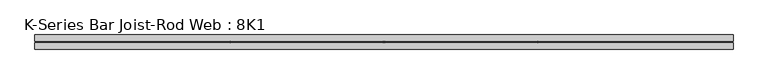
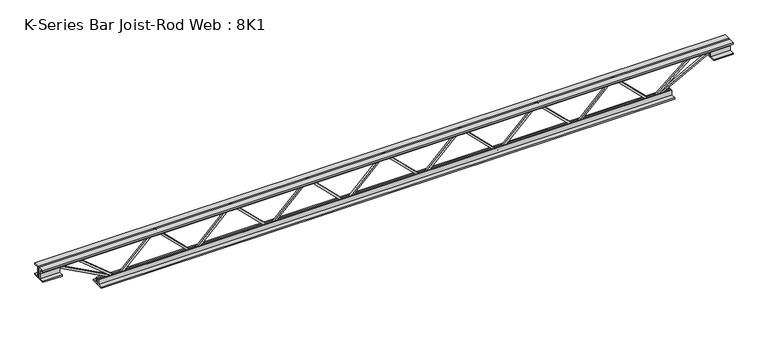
"""IFC4 building model written with IfcOpenShell, lengths in millimetres: beam geometry, K-Series Bar Joist-Rod Web : 8K1."""

from ifc_helpers import new_model, si_unit, frame, origin, place, context, project, spatial, polyline, outline, extrude, source, transform, mapped, element, save


def k_series_bar_joist_rod_web_8k1_8d8b8ead(model_context):
    return source(origin(), model_context, "Body", "SweptSolid", [
        extrude(outline(polyline([(-90.4875, 598.572914), (-100.0125, 598.572914), (-100.0125, 603.7011887), (90.4875, 796.8754933), (90.4875, 799.3189439), (-100.0125, 992.4932486), (-100.0125, 997.6215233), (-90.4875, 997.6215233), (-90.4875, 996.399798), (100.0125, 803.2254933), (100.0125, 792.9689439), (-90.4875, 599.7946393), (-90.4875, 598.572914)])), frame((0.0, -4.7625, 0.0), z_axis=(0.0, 1.0, 0.0), x_axis=(0.0, 0.0, 1.0)), (0.0, 0.0, 1.0), 9.525),
        extrude(outline(polyline([(-90.4875, 199.5243047), (-100.0125, 199.5243047), (-100.0125, 204.6525794), (90.4875, 397.826884), (90.4875, 400.2703346), (-100.0125, 593.4446393), (-100.0125, 598.572914), (-90.4875, 598.572914), (-90.4875, 597.3511887), (100.0125, 404.176884), (100.0125, 393.9203346), (-90.4875, 200.74603), (-90.4875, 199.5243047)])), frame((0.0, -4.7625, 0.0), z_axis=(0.0, 1.0, 0.0), x_axis=(0.0, 0.0, 1.0)), (0.0, 0.0, 1.0), 9.525),
        extrude(outline(polyline([(-90.4875, -199.5243047), (-100.0125, -199.5243047), (-100.0125, -194.39603), (90.4875, -1.2217253), (90.4875, 1.2217253), (-100.0125, 194.39603), (-100.0125, 199.5243047), (-90.4875, 199.5243047), (-90.4875, 198.3025794), (100.0125, 5.1282747), (100.0125, -5.1282747), (-90.4875, -198.3025794), (-90.4875, -199.5243047)])), frame((0.0, -4.7625, 0.0), z_axis=(0.0, 1.0, 0.0), x_axis=(0.0, 0.0, 1.0)), (0.0, 0.0, 1.0), 9.525),
        extrude(outline(polyline([(-90.4875, -598.572914), (-100.0125, -598.572914), (-100.0125, -593.4446393), (90.4875, -400.2703346), (90.4875, -397.826884), (-100.0125, -204.6525794), (-100.0125, -199.5243047), (-90.4875, -199.5243047), (-90.4875, -200.74603), (100.0125, -393.9203346), (100.0125, -404.176884), (-90.4875, -597.3511887), (-90.4875, -598.572914)])), frame((0.0, -4.7625, 0.0), z_axis=(0.0, 1.0, 0.0), x_axis=(0.0, 0.0, 1.0)), (0.0, 0.0, 1.0), 9.525),
        extrude(outline(polyline([(-90.4875, -997.6215233), (-100.0125, -997.6215233), (-100.0125, -992.4932486), (90.4875, -799.3189439), (90.4875, -796.8754933), (-100.0125, -603.7011887), (-100.0125, -598.572914), (-90.4875, -598.572914), (-90.4875, -599.7946393), (100.0125, -792.9689439), (100.0125, -803.2254933), (-90.4875, -996.399798), (-90.4875, -997.6215233)])), frame((0.0, -4.7625, 0.0), z_axis=(0.0, 1.0, 0.0), x_axis=(0.0, 0.0, 1.0)), (0.0, 0.0, 1.0), 9.525),
        extrude(outline(polyline([(-90.4875, 997.6215233), (-100.0125, 997.6215233), (-100.0125, 1002.749798), (90.4875, 1195.9241027), (90.4875, 1198.3675532), (-100.0125, 1391.5418579), (-100.0125, 1396.6701326), (-90.4875, 1396.6701326), (-90.4875, 1395.4484073), (100.0125, 1202.2741027), (100.0125, 1192.0175532), (-90.4875, 998.8432486), (-90.4875, 997.6215233)])), frame((0.0, -4.7625, 0.0), z_axis=(0.0, 1.0, 0.0), x_axis=(0.0, 0.0, 1.0)), (0.0, 0.0, 1.0), 9.525),
        extrude(outline(polyline([(-90.4875, -1396.6701326), (-100.0125, -1396.6701326), (-100.0125, -1391.5418579), (90.4875, -1198.3675532), (90.4875, -1195.9241027), (-100.0125, -1002.749798), (-100.0125, -997.6215233), (-90.4875, -997.6215233), (-90.4875, -998.8432486), (100.0125, -1192.0175532), (100.0125, -1202.2741027), (-90.4875, -1395.4484073), (-90.4875, -1396.6701326)])), frame((0.0, -4.7625, 0.0), z_axis=(0.0, 1.0, 0.0), x_axis=(0.0, 0.0, 1.0)), (0.0, 0.0, 1.0), 9.525),
        extrude(outline(polyline([(4.7625, 101.6), (36.5125, 101.6), (36.5125, 95.25), (11.1125, 95.25), (11.1125, 69.85), (4.7625, 69.85), (4.7625, 101.6)])), frame((-1803.0701326, 0.0, 0.0), z_axis=(1.0, 0.0, 0.0), x_axis=(0.0, 1.0, 0.0)), (0.0, 0.0, 1.0), 3606.1402652),
        extrude(outline(polyline([(-4.7625, 101.6), (-4.7625, 69.85), (-11.1125, 69.85), (-11.1125, 95.25), (-36.5125, 95.25), (-36.5125, 101.6), (-4.7625, 101.6)])), frame((-1803.0701326, 0.0, 0.0), z_axis=(1.0, 0.0, 0.0), x_axis=(0.0, 1.0, 0.0)), (0.0, 0.0, 1.0), 3606.1402652),
        extrude(outline(polyline([(-4.7625, 38.1), (-36.5125, 38.1), (-36.5125, 44.45), (-11.1125, 44.45), (-11.1125, 69.85), (-4.7625, 69.85), (-4.7625, 38.1)])), frame((-1803.0701326, 0.0, 0.0), z_axis=(1.0, 0.0, 0.0), x_axis=(0.0, 1.0, 0.0)), (0.0, 0.0, 1.0), 101.6),
        extrude(outline(polyline([(36.5125, 38.1), (4.7625, 38.1), (4.7625, 69.85), (11.1125, 69.85), (11.1125, 44.45), (36.5125, 44.45), (36.5125, 38.1)])), frame((-1803.0701326, 0.0, 0.0), z_axis=(1.0, 0.0, 0.0), x_axis=(0.0, 1.0, 0.0)), (0.0, 0.0, 1.0), 101.6),
        extrude(outline(polyline([(4.7625, 38.1), (4.7625, 69.85), (11.1125, 69.85), (11.1125, 44.45), (36.5125, 44.45), (36.5125, 38.1), (4.7625, 38.1)])), frame((1701.4701326, 0.0, 0.0), z_axis=(1.0, 0.0, 0.0), x_axis=(0.0, 1.0, 0.0)), (0.0, 0.0, 1.0), 101.6),
        extrude(outline(polyline([(-4.7625, 38.1), (-36.5125, 38.1), (-36.5125, 44.45), (-11.1125, 44.45), (-11.1125, 69.85), (-4.7625, 69.85), (-4.7625, 38.1)])), frame((1701.4701326, 0.0, 0.0), z_axis=(1.0, 0.0, 0.0), x_axis=(0.0, 1.0, 0.0)), (0.0, 0.0, 1.0), 101.6),
        extrude(outline(polyline([(4.7625, -101.6), (4.7625, -69.85), (11.1125, -69.85), (11.1125, -95.25), (36.5125, -95.25), (36.5125, -101.6), (4.7625, -101.6)])), frame((-1498.2701326, 0.0, 0.0), z_axis=(1.0, 0.0, 0.0), x_axis=(0.0, 1.0, 0.0)), (0.0, 0.0, 1.0), 2996.5402652),
        extrude(outline(polyline([(-4.7625, -101.6), (-36.5125, -101.6), (-36.5125, -95.25), (-11.1125, -95.25), (-11.1125, -69.85), (-4.7625, -69.85), (-4.7625, -101.6)])), frame((-1498.2701326, 0.0, 0.0), z_axis=(1.0, 0.0, 0.0), x_axis=(0.0, 1.0, 0.0)), (0.0, 0.0, 1.0), 2996.5402652),
        extrude(outline(polyline([(0.0, -9.525), (0.0, 0.0), (346.6425392, 0.0), (346.6425392, -9.525), (0.0, -9.525)])), frame((-1703.7384311, 4.7625, 65.662372), z_axis=(0.4762831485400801, 0.0, 0.8792919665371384), x_axis=(0.8792919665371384, 0.0, -0.4762831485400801)), (0.0, 0.0, 1.0), 9.525),
        extrude(outline(polyline([(0.0, -9.525), (0.0, 0.0), (258.9748214, 0.0), (258.9748214, -9.525), (0.0, -9.525)])), frame((-1599.2305963, 4.7625, 66.1807842), z_axis=(0.6375137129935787, 0.0, 0.7704390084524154), x_axis=(0.7704390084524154, 0.0, -0.6375137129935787)), (0.0, 0.0, 1.0), 9.525),
        extrude(outline(polyline([(0.0, -9.525), (0.0, 0.0), (346.6425392, 0.0), (346.6425392, -9.525), (0.0, -9.525)])), frame((1703.7384311, -4.7625, 65.662372), z_axis=(-0.4762831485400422, 0.0, 0.8792919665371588), x_axis=(-0.8792919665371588, 0.0, -0.4762831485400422)), (0.0, 0.0, 1.0), 9.525),
        extrude(outline(polyline([(0.0, -9.525), (0.0, 0.0), (258.9748214, 0.0), (258.9748214, -9.525), (0.0, -9.525)])), frame((1599.2305963, -4.7625, 66.1807842), z_axis=(-0.6375137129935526, 0.0, 0.7704390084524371), x_axis=(-0.7704390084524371, 0.0, -0.6375137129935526)), (0.0, 0.0, 1.0), 9.525),
    ])


if __name__ == "__main__":
    model = new_model("IFC4")
    model_context = context("Model", 3, world=origin())
    ifc_project = project(units=[si_unit("LENGTHUNIT", "METRE", prefix="MILLI")], contexts=[model_context])
    site = spatial("IfcSite", under=ifc_project)
    building = spatial("IfcBuilding", under=site)
    placement = place(None, origin())
    k_series_bar_joist_rod_web_8k1_shape = k_series_bar_joist_rod_web_8k1_8d8b8ead(model_context)
    element("IfcBeam", 1, ObjectType="K-Series Bar Joist-Rod Web : 8K1", at=placement, inside=building, context=model_context, shape_type="MappedRepresentation", body=[
        mapped(k_series_bar_joist_rod_web_8k1_shape, transform((0.0, 0.0, 0.0), x_axis=(1.0, 0.0, 0.0), y_axis=(0.0, 1.0, 0.0), z_axis=(0.0, 0.0, 1.0))),
    ])
    save(model, "model.ifc")
